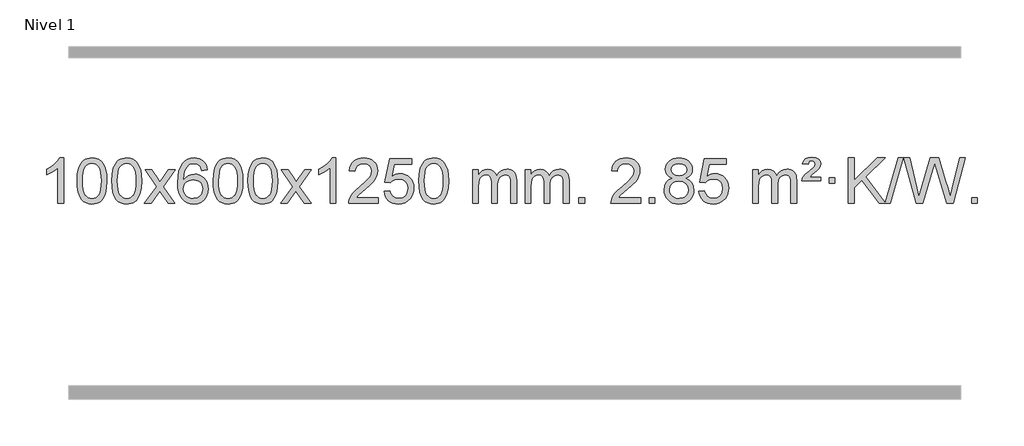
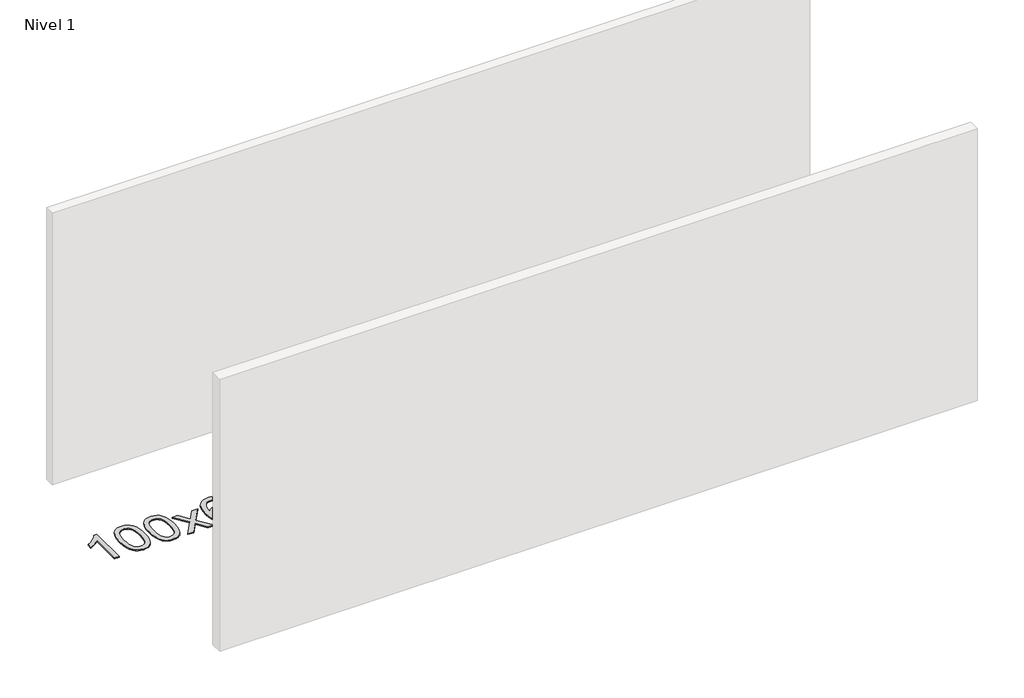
# One storey, part 3 of 8: 1 proxy.
"""IFC4 building model written with IfcOpenShell, lengths in millimetres."""

from ifc_helpers import new_model, si_unit, origin, origin_with_axes, place, context, project, spatial, polyline, outline, extrude, element, save

model = new_model("IFC4")

# Units and contexts
model_context = context("Model", 3, world=origin())
ifc_project = project(units=[si_unit("LENGTHUNIT", "METRE", prefix="MILLI")], contexts=[model_context])

# Site, building, storey
site = spatial("IfcSite", under=ifc_project)
building = spatial("IfcBuilding", under=site)
storey = spatial("IfcBuildingStorey", under=building, Name="Nivel 1", Elevation=0.0)

# Proxy
placement = place(None, origin())
element("IfcBuildingElementProxy", 1, Name="Texto de modelo 1", ObjectType="Texto de modelo 1", at=placement, inside=storey, context=model_context, shape_type="SweptSolid", body=[
    extrude(outline(polyline([(-6575.4615788, -12403.579453), (-6625.6897338, -12403.579453), (-6625.6897338, -12090.4382987), (-6646.6590076, -12107.3976587), (-6673.2691385, -12124.3324932), (-6726.146044, -12149.6918254), (-6726.146044, -12102.2105225), (-6686.6968314, -12080.7507395), (-6652.520594, -12055.219729), (-6625.5793692, -12028.0700378), (-6607.8351943, -12001.7542124), (-6575.4615788, -12001.7542124), (-6575.4615788, -12403.579453)])), origin_with_axes(), (0.0, 0.0, 1.0), 10.0),
    extrude(outline(polyline([(-6456.1697105, -12205.9041943), (-6452.4786278, -12141.5861588), (-6441.4053797, -12090.2911459), (-6423.0603309, -12051.2343407), (-6411.2022679, -12036.0009605), (-6397.5538459, -12023.6309284), (-6382.0690796, -12014.0598651), (-6364.7019837, -12007.2233914), (-6324.3208034, -12001.7542124), (-6293.3696649, -12004.991574), (-6265.6558879, -12014.7036586), (-6242.4793222, -12030.5103217), (-6225.1398175, -12052.0314184), (-6212.0432185, -12079.0830078), (-6201.5953698, -12111.4811488), (-6194.7527647, -12152.6226186), (-6192.4718963, -12205.9041943), (-6196.1261908, -12269.8543477), (-6207.0890743, -12321.0267333), (-6225.3237585, -12360.1203266), (-6237.1542303, -12375.3996922), (-6250.7934553, -12387.8341036), (-6266.2966157, -12397.4695462), (-6283.7188939, -12404.3520052), (-6324.3208034, -12409.8579724), (-6351.9855294, -12407.4667394), (-6376.5109958, -12400.2930405), (-6397.8972024, -12388.3368757), (-6416.1441494, -12371.5982449), (-6433.6553324, -12341.3399508), (-6446.1633202, -12303.6381776), (-6453.6681129, -12258.4929255), (-6456.1697105, -12205.9041943)]), holes=[polyline([(-6405.9415554, -12205.8060924), (-6404.4700274, -12249.4706195), (-6400.0554435, -12284.8148822), (-6392.6978036, -12311.8388804), (-6382.3971077, -12330.5426142), (-6369.9381708, -12343.2682656), (-6356.1058078, -12352.3580165), (-6340.9000186, -12357.8118671), (-6324.3208034, -12359.6298173), (-6307.7415881, -12357.8057357), (-6292.535799, -12352.3334911), (-6278.703436, -12343.2130833), (-6266.2444991, -12330.4445124), (-6255.9438032, -12311.7101217), (-6248.5861633, -12284.6922549), (-6244.1715794, -12249.3909118), (-6242.7000514, -12205.8060924), (-6244.1225284, -12163.2973278), (-6248.3899596, -12128.5753989), (-6255.5023448, -12101.6403055), (-6265.4596842, -12082.4920476), (-6277.7101546, -12069.1440625), (-6291.7019332, -12059.6097875), (-6307.4350198, -12053.8892225), (-6324.9094146, -12051.9823675), (-6341.4027907, -12053.6623619), (-6356.3510624, -12058.7023452), (-6369.7542298, -12067.1023175), (-6381.6122928, -12078.8622786), (-6392.2563452, -12099.708925), (-6399.8592397, -12127.8151094), (-6404.4209765, -12163.1808319), (-6405.9415554, -12205.8060924)])]), origin_with_axes(), (0.0, 0.0, 1.0), 10.0),
    extrude(outline(polyline([(-6148.5222606, -12205.9041943), (-6144.8311779, -12141.5861588), (-6133.7579299, -12090.2911459), (-6115.4128811, -12051.2343407), (-6103.5548181, -12036.0009605), (-6089.9063961, -12023.6309284), (-6074.4216298, -12014.0598651), (-6057.0545339, -12007.2233914), (-6016.6733536, -12001.7542124), (-5985.722215, -12004.991574), (-5958.0084381, -12014.7036586), (-5934.8318724, -12030.5103217), (-5917.4923677, -12052.0314184), (-5904.3957686, -12079.0830078), (-5893.94792, -12111.4811488), (-5887.1053149, -12152.6226186), (-5884.8244465, -12205.9041943), (-5888.478741, -12269.8543477), (-5899.4416244, -12321.0267333), (-5917.6763087, -12360.1203266), (-5929.5067805, -12375.3996922), (-5943.1460055, -12387.8341036), (-5958.6491659, -12397.4695462), (-5976.071444, -12404.3520052), (-6016.6733536, -12409.8579724), (-6044.3380796, -12407.4667394), (-6068.8635459, -12400.2930405), (-6090.2497526, -12388.3368757), (-6108.4966996, -12371.5982449), (-6126.0078825, -12341.3399508), (-6138.5158704, -12303.6381776), (-6146.0206631, -12258.4929255), (-6148.5222606, -12205.9041943)]), holes=[polyline([(-6098.2941056, -12205.8060924), (-6096.8225776, -12249.4706195), (-6092.4079936, -12284.8148822), (-6085.0503537, -12311.8388804), (-6074.7496579, -12330.5426142), (-6062.290721, -12343.2682656), (-6048.4583579, -12352.3580165), (-6033.2525688, -12357.8118671), (-6016.6733536, -12359.6298173), (-6000.0941383, -12357.8057357), (-5984.8883492, -12352.3334911), (-5971.0559862, -12343.2130833), (-5958.5970493, -12330.4445124), (-5948.2963534, -12311.7101217), (-5940.9387135, -12284.6922549), (-5936.5241295, -12249.3909118), (-5935.0526016, -12205.8060924), (-5936.4750786, -12163.2973278), (-5940.7425098, -12128.5753989), (-5947.854895, -12101.6403055), (-5957.8122343, -12082.4920476), (-5970.0627048, -12069.1440625), (-5984.0544833, -12059.6097875), (-5999.78757, -12053.8892225), (-6017.2619648, -12051.9823675), (-6033.7553409, -12053.6623619), (-6048.7036126, -12058.7023452), (-6062.10678, -12067.1023175), (-6073.9648429, -12078.8622786), (-6084.6088953, -12099.708925), (-6092.2117899, -12127.8151094), (-6096.7735266, -12163.1808319), (-6098.2941056, -12205.8060924)])]), origin_with_axes(), (0.0, 0.0, 1.0), 10.0),
    extrude(outline(polyline([(-5859.7103689, -12403.579453), (-5752.3869282, -12255.2494325), (-5853.4318496, -12108.4890419), (-5793.0011005, -12108.4890419), (-5744.2444734, -12179.122385), (-5721.4848406, -12212.4770192), (-5701.7663657, -12185.2047007), (-5646.2407099, -12108.4890419), (-5585.8099608, -12108.4890419), (-5691.9561791, -12255.2494325), (-5589.7340354, -12403.579453), (-5650.1647845, -12403.579453), (-5711.6746541, -12314.4048574), (-5722.9563686, -12298.1199477), (-5799.2796199, -12403.579453), (-5859.7103689, -12403.579453)])), origin_with_axes(), (0.0, 0.0, 1.0), 10.0),
    extrude(outline(polyline([(-5300.9221437, -12108.4890419), (-5351.1502988, -12114.7675613), (-5359.2437027, -12089.874213), (-5370.1820607, -12072.8780648), (-5392.9662189, -12057.2062918), (-5420.5083176, -12051.9823675), (-5443.8565616, -12055.0235253), (-5465.8313794, -12064.1469988), (-5484.7037258, -12083.3627017), (-5500.1179814, -12109.8134171), (-5510.5290419, -12147.227016), (-5514.3918028, -12199.3313693), (-5494.2441322, -12175.8237098), (-5470.0988106, -12159.2567573), (-5443.3047386, -12149.434308), (-5415.2108169, -12146.1601582), (-5391.077758, -12148.398107), (-5368.8086346, -12155.1119534), (-5348.4034466, -12166.3016975), (-5329.862194, -12181.9673391), (-5314.4540698, -12201.1769106), (-5303.4482668, -12222.9984443), (-5296.844785, -12247.4319401), (-5294.6436244, -12274.4773982), (-5298.7884282, -12310.4439945), (-5311.2228396, -12343.786366), (-5330.9167891, -12372.0642287), (-5356.840207, -12392.8372987), (-5387.815871, -12405.602804), (-5422.6665587, -12409.8579724), (-5452.6090874, -12407.0375437), (-5479.6514797, -12398.5762579), (-5503.7937357, -12384.4741147), (-5525.0358552, -12364.7311143), (-5542.3539001, -12338.5133908), (-5554.7239322, -12304.9870783), (-5562.1459515, -12264.1521768), (-5564.6199579, -12216.0086864), (-5561.8731057, -12162.0342663), (-5553.632549, -12115.9693092), (-5539.8982878, -12077.8138149), (-5520.6703222, -12047.5677835), (-5499.8298072, -12027.5243462), (-5475.6660915, -12013.2076052), (-5448.179175, -12004.6175606), (-5417.3690579, -12001.7542124), (-5394.2354118, -12003.5261773), (-5373.2967949, -12008.8420722), (-5354.5532073, -12017.7018969), (-5338.0046489, -12030.1056515), (-5324.0987094, -12045.6364031), (-5313.2829788, -12063.8772186), (-5305.5574569, -12084.8280983), (-5300.9221437, -12108.4890419)]), holes=[polyline([(-5514.3918028, -12273.6925832), (-5511.485535, -12295.9494439), (-5502.7667318, -12317.2007605), (-5489.2286743, -12335.472233), (-5471.8646442, -12348.7895612), (-5450.9076332, -12356.9197533), (-5426.5906333, -12359.6298173), (-5393.4444655, -12354.0134855), (-5379.5293291, -12346.9930708), (-5367.3861575, -12337.1644901), (-5357.5361171, -12324.9262824), (-5350.500374, -12310.6769865), (-5344.8717794, -12276.1451299), (-5350.4267976, -12242.9989621), (-5357.3705702, -12229.3781312), (-5367.0918519, -12217.725469), (-5379.2718117, -12208.3904634), (-5393.5916183, -12201.7226022), (-5428.6507725, -12196.3883133), (-5461.7478893, -12201.7226022), (-5489.4248781, -12217.725469), (-5500.3479076, -12229.2248471), (-5508.1500716, -12242.3858254), (-5512.83137, -12257.2084042), (-5514.3918028, -12273.6925832)])]), origin_with_axes(), (0.0, 0.0, 1.0), 10.0),
    extrude(outline(polyline([(-5250.6939887, -12205.9041943), (-5247.002906, -12141.5861588), (-5235.9296579, -12090.2911459), (-5217.5846091, -12051.2343407), (-5205.7265461, -12036.0009605), (-5192.0781241, -12023.6309284), (-5176.5933578, -12014.0598651), (-5159.2262619, -12007.2233914), (-5118.8450816, -12001.7542124), (-5087.8939431, -12004.991574), (-5060.1801661, -12014.7036586), (-5037.0036004, -12030.5103217), (-5019.6640957, -12052.0314184), (-5006.5674967, -12079.0830078), (-4996.119648, -12111.4811488), (-4989.2770429, -12152.6226186), (-4986.9961745, -12205.9041943), (-4990.650469, -12269.8543477), (-5001.6133525, -12321.0267333), (-5019.8480367, -12360.1203266), (-5031.6785085, -12375.3996922), (-5045.3177335, -12387.8341036), (-5060.8208939, -12397.4695462), (-5078.2431721, -12404.3520052), (-5118.8450816, -12409.8579724), (-5146.5098076, -12407.4667394), (-5171.035274, -12400.2930405), (-5192.4214806, -12388.3368757), (-5210.6684276, -12371.5982449), (-5228.1796106, -12341.3399508), (-5240.6875984, -12303.6381776), (-5248.1923911, -12258.4929255), (-5250.6939887, -12205.9041943)]), holes=[polyline([(-5200.4658336, -12205.8060924), (-5198.9943056, -12249.4706195), (-5194.5797217, -12284.8148822), (-5187.2220818, -12311.8388804), (-5176.9213859, -12330.5426142), (-5164.462449, -12343.2682656), (-5150.630086, -12352.3580165), (-5135.4242968, -12357.8118671), (-5118.8450816, -12359.6298173), (-5102.2658663, -12357.8057357), (-5087.0600772, -12352.3334911), (-5073.2277142, -12343.2130833), (-5060.7687773, -12330.4445124), (-5050.4680814, -12311.7101217), (-5043.1104415, -12284.6922549), (-5038.6958576, -12249.3909118), (-5037.2243296, -12205.8060924), (-5038.6468066, -12163.2973278), (-5042.9142378, -12128.5753989), (-5050.026623, -12101.6403055), (-5059.9839624, -12082.4920476), (-5072.2344328, -12069.1440625), (-5086.2262114, -12059.6097875), (-5101.959298, -12053.8892225), (-5119.4336928, -12051.9823675), (-5135.9270689, -12053.6623619), (-5150.8753406, -12058.7023452), (-5164.278508, -12067.1023175), (-5176.136571, -12078.8622786), (-5186.7806234, -12099.708925), (-5194.3835179, -12127.8151094), (-5198.9452547, -12163.1808319), (-5200.4658336, -12205.8060924)])]), origin_with_axes(), (0.0, 0.0, 1.0), 10.0),
    extrude(outline(polyline([(-4943.0465388, -12205.9041943), (-4939.3554561, -12141.5861588), (-4928.2822081, -12090.2911459), (-4909.9371593, -12051.2343407), (-4898.0790963, -12036.0009605), (-4884.4306743, -12023.6309284), (-4868.945908, -12014.0598651), (-4851.5788121, -12007.2233914), (-4811.1976318, -12001.7542124), (-4780.2464932, -12004.991574), (-4752.5327163, -12014.7036586), (-4729.3561506, -12030.5103217), (-4712.0166459, -12052.0314184), (-4698.9200468, -12079.0830078), (-4688.4721982, -12111.4811488), (-4681.6295931, -12152.6226186), (-4679.3487247, -12205.9041943), (-4683.0030192, -12269.8543477), (-4693.9659026, -12321.0267333), (-4712.2005869, -12360.1203266), (-4724.0310587, -12375.3996922), (-4737.6702837, -12387.8341036), (-4753.1734441, -12397.4695462), (-4770.5957222, -12404.3520052), (-4811.1976318, -12409.8579724), (-4838.8623578, -12407.4667394), (-4863.3878241, -12400.2930405), (-4884.7740308, -12388.3368757), (-4903.0209778, -12371.5982449), (-4920.5321607, -12341.3399508), (-4933.0401486, -12303.6381776), (-4940.5449413, -12258.4929255), (-4943.0465388, -12205.9041943)]), holes=[polyline([(-4892.8183838, -12205.8060924), (-4891.3468558, -12249.4706195), (-4886.9322718, -12284.8148822), (-4879.5746319, -12311.8388804), (-4869.2739361, -12330.5426142), (-4856.8149992, -12343.2682656), (-4842.9826361, -12352.3580165), (-4827.776847, -12357.8118671), (-4811.1976318, -12359.6298173), (-4794.6184165, -12357.8057357), (-4779.4126274, -12352.3334911), (-4765.5802644, -12343.2130833), (-4753.1213275, -12330.4445124), (-4742.8206316, -12311.7101217), (-4735.4629917, -12284.6922549), (-4731.0484077, -12249.3909118), (-4729.5768798, -12205.8060924), (-4730.9993568, -12163.2973278), (-4735.266788, -12128.5753989), (-4742.3791732, -12101.6403055), (-4752.3365125, -12082.4920476), (-4764.586983, -12069.1440625), (-4778.5787615, -12059.6097875), (-4794.3118482, -12053.8892225), (-4811.786243, -12051.9823675), (-4828.2796191, -12053.6623619), (-4843.2278908, -12058.7023452), (-4856.6310582, -12067.1023175), (-4868.4891211, -12078.8622786), (-4879.1331735, -12099.708925), (-4886.7360681, -12127.8151094), (-4891.2978048, -12163.1808319), (-4892.8183838, -12205.8060924)])]), origin_with_axes(), (0.0, 0.0, 1.0), 10.0),
    extrude(outline(polyline([(-4654.2346472, -12403.579453), (-4546.9112064, -12255.2494325), (-4647.9561278, -12108.4890419), (-4587.5253787, -12108.4890419), (-4538.7687516, -12179.122385), (-4516.0091188, -12212.4770192), (-4496.2906439, -12185.2047007), (-4440.7649881, -12108.4890419), (-4380.334239, -12108.4890419), (-4486.4804574, -12255.2494325), (-4384.2583136, -12403.579453), (-4444.6890627, -12403.579453), (-4506.1989323, -12314.4048574), (-4517.4806468, -12298.1199477), (-4593.8038981, -12403.579453), (-4654.2346472, -12403.579453)])), origin_with_axes(), (0.0, 0.0, 1.0), 10.0),
    extrude(outline(polyline([(-4164.5101352, -12403.579453), (-4214.7382902, -12403.579453), (-4214.7382902, -12090.4382987), (-4235.707564, -12107.3976587), (-4262.317695, -12124.3324932), (-4315.1946004, -12149.6918254), (-4315.1946004, -12102.2105225), (-4275.7453878, -12080.7507395), (-4241.5691504, -12055.219729), (-4214.6279257, -12028.0700378), (-4196.8837508, -12001.7542124), (-4164.5101352, -12001.7542124), (-4164.5101352, -12403.579453)])), origin_with_axes(), (0.0, 0.0, 1.0), 10.0),
    extrude(outline(polyline([(-3787.7989721, -12353.3512979), (-3787.7989721, -12403.579453), (-4051.4967863, -12403.579453), (-4050.3931403, -12385.8965918), (-4046.1011837, -12368.9494945), (-4033.7158232, -12341.8856424), (-4015.5915035, -12315.6311307), (-3989.37378, -12288.1503456), (-3952.7082078, -12257.4076736), (-3898.5069272, -12209.2641831), (-3865.9861588, -12173.7267824), (-3849.7257746, -12144.884834), (-3844.3056466, -12116.8277005), (-3849.4192063, -12091.6768347), (-3864.7598855, -12070.7688747), (-3888.3411214, -12056.6789943), (-3918.1763512, -12051.9823675), (-3949.5076345, -12056.5686297), (-3973.8491598, -12070.3274163), (-3989.557721, -12092.1796068), (-3994.9901118, -12121.0460807), (-4045.2182669, -12114.7675613), (-4040.8987191, -12088.838012), (-4033.0413728, -12066.1826125), (-4021.646228, -12046.8013627), (-4006.7132847, -12030.6942627), (-3988.5858994, -12018.0329907), (-3967.6074286, -12008.989225), (-3943.7778724, -12003.5629655), (-3917.0972307, -12001.7542124), (-3890.1774657, -12003.7653006), (-3866.2191508, -12009.7985654), (-3845.2222859, -12019.8540066), (-3827.1868711, -12033.9316242), (-3812.7015175, -12050.9890861), (-3802.3548364, -12069.9840598), (-3796.1468277, -12090.9165453), (-3794.0774915, -12113.7865427), (-3796.3093089, -12137.8092369), (-3803.0047612, -12161.4149983), (-3814.8873497, -12185.4254299), (-3832.6805755, -12210.6621347), (-3861.0442774, -12240.7916701), (-3904.6382938, -12279.4805933), (-3962.4202925, -12327.795762), (-3985.0818234, -12353.3512979), (-3787.7989721, -12353.3512979)])), origin_with_axes(), (0.0, 0.0, 1.0), 10.0),
    extrude(outline(polyline([(-3737.570817, -12296.8446235), (-3687.342662, -12290.5661041), (-3678.1210866, -12320.7201649), (-3662.0323807, -12342.3148381), (-3639.1501206, -12355.3010725), (-3609.5478827, -12359.6298173), (-3590.418019, -12358.1245668), (-3573.5444981, -12353.6088153), (-3558.9273202, -12346.0825628), (-3546.5664851, -12335.5458094), (-3536.7379045, -12322.519721), (-3529.7174898, -12307.5254641), (-3524.101158, -12271.6324441), (-3529.3618705, -12237.8363514), (-3535.9377612, -12223.9181493), (-3545.1440081, -12211.9865099), (-3557.0112681, -12202.4154467), (-3571.5701981, -12195.5789729), (-3608.7630678, -12190.1097939), (-3633.1291186, -12192.2925604), (-3652.8598563, -12198.8408599), (-3668.6174684, -12208.8717757), (-3681.0641426, -12221.5023908), (-3731.2922977, -12215.2238715), (-3687.342662, -12008.0327318), (-3492.708561, -12008.0327318), (-3492.708561, -12058.2608869), (-3646.7284897, -12058.2608869), (-3668.2127982, -12168.919791), (-3650.4870174, -12156.2155994), (-3632.332041, -12147.1411769), (-3613.7478688, -12141.6965234), (-3594.734501, -12139.8816388), (-3570.273414, -12142.1318504), (-3547.8050212, -12148.882485), (-3527.3293225, -12160.1335427), (-3508.8463179, -12175.8850234), (-3493.5454926, -12195.1743027), (-3482.6163316, -12217.038756), (-3476.0588351, -12241.4783832), (-3473.8730029, -12268.4931844), (-3475.8411716, -12294.5147042), (-3481.7456776, -12318.7213394), (-3491.586521, -12341.1130902), (-3505.3637017, -12361.6899565), (-3526.2348735, -12382.7634634), (-3550.5886616, -12397.8159684), (-3578.4250659, -12406.8474714), (-3609.7440864, -12409.8579724), (-3635.6644387, -12407.9235262), (-3659.077062, -12402.1201877), (-3679.9819564, -12392.447957), (-3698.3791218, -12378.9068338), (-3713.6860785, -12362.1712688), (-3725.3203466, -12342.915712), (-3733.2819261, -12321.1401636), (-3737.570817, -12296.8446235)])), origin_with_axes(), (0.0, 0.0, 1.0), 10.0),
    extrude(outline(polyline([(-3429.9233672, -12205.9041943), (-3426.2322845, -12141.5861588), (-3415.1590365, -12090.2911459), (-3396.8139876, -12051.2343407), (-3384.9559247, -12036.0009605), (-3371.3075026, -12023.6309284), (-3355.8227363, -12014.0598651), (-3338.4556405, -12007.2233914), (-3298.0744601, -12001.7542124), (-3267.1233216, -12004.991574), (-3239.4095446, -12014.7036586), (-3216.2329789, -12030.5103217), (-3198.8934742, -12052.0314184), (-3185.7968752, -12079.0830078), (-3175.3490265, -12111.4811488), (-3168.5064214, -12152.6226186), (-3166.2255531, -12205.9041943), (-3169.8798475, -12269.8543477), (-3180.842731, -12321.0267333), (-3199.0774152, -12360.1203266), (-3210.9078871, -12375.3996922), (-3224.547112, -12387.8341036), (-3240.0502724, -12397.4695462), (-3257.4725506, -12404.3520052), (-3298.0744601, -12409.8579724), (-3325.7391862, -12407.4667394), (-3350.2646525, -12400.2930405), (-3371.6508592, -12388.3368757), (-3389.8978061, -12371.5982449), (-3407.4089891, -12341.3399508), (-3419.9169769, -12303.6381776), (-3427.4217696, -12258.4929255), (-3429.9233672, -12205.9041943)]), holes=[polyline([(-3379.6952121, -12205.8060924), (-3378.2236842, -12249.4706195), (-3373.8091002, -12284.8148822), (-3366.4514603, -12311.8388804), (-3356.1507644, -12330.5426142), (-3343.6918275, -12343.2682656), (-3329.8594645, -12352.3580165), (-3314.6536754, -12357.8118671), (-3298.0744601, -12359.6298173), (-3281.4952449, -12357.8057357), (-3266.2894558, -12352.3334911), (-3252.4570927, -12343.2130833), (-3239.9981558, -12330.4445124), (-3229.69746, -12311.7101217), (-3222.3398201, -12284.6922549), (-3217.9252361, -12249.3909118), (-3216.4537081, -12205.8060924), (-3217.8761852, -12163.2973278), (-3222.1436163, -12128.5753989), (-3229.2560016, -12101.6403055), (-3239.2133409, -12082.4920476), (-3251.4638113, -12069.1440625), (-3265.4555899, -12059.6097875), (-3281.1886766, -12053.8892225), (-3298.6630713, -12051.9823675), (-3315.1564474, -12053.6623619), (-3330.1047192, -12058.7023452), (-3343.5078865, -12067.1023175), (-3355.3659495, -12078.8622786), (-3366.0100019, -12099.708925), (-3373.6128965, -12127.8151094), (-3378.1746332, -12163.1808319), (-3379.6952121, -12205.8060924)])]), origin_with_axes(), (0.0, 0.0, 1.0), 10.0),
    extrude(outline(polyline([(-2952.755894, -12403.579453), (-2952.755894, -12108.4890419), (-2902.5277389, -12108.4890419), (-2902.5277389, -12157.0494653), (-2887.4200517, -12134.7435537), (-2867.9958823, -12117.2691589), (-2844.9174185, -12105.9751816), (-2818.8468478, -12102.2105225), (-2790.9123416, -12106.048758), (-2768.5205908, -12117.5634645), (-2751.7942228, -12135.9943524), (-2740.8558648, -12160.5811324), (-2722.5476041, -12135.0439906), (-2701.6641696, -12116.803175), (-2678.205561, -12105.8586857), (-2652.1717785, -12102.2105225), (-2632.0639617, -12103.7280358), (-2614.414823, -12108.2805755), (-2599.2243623, -12115.8681416), (-2586.4925796, -12126.4907342), (-2576.4279413, -12140.2709806), (-2569.238914, -12157.3315082), (-2564.9254976, -12177.6723168), (-2563.4876922, -12201.2934066), (-2563.4876922, -12403.579453), (-2613.7158472, -12403.579453), (-2613.7158472, -12222.875817), (-2614.8808069, -12197.8230531), (-2618.3756858, -12180.9372695), (-2624.9239854, -12169.3735121), (-2635.2492067, -12160.2868268), (-2648.5297467, -12154.4007149), (-2663.9440023, -12152.4386776), (-2691.1550072, -12157.4663982), (-2713.3382915, -12172.54956), (-2721.9436645, -12184.1194488), (-2728.0903595, -12198.7182326), (-2733.0077155, -12237.0024856), (-2733.0077155, -12403.579453), (-2783.2358706, -12403.579453), (-2783.2358706, -12217.2840106), (-2786.1421384, -12188.8835206), (-2794.8609417, -12168.6254854), (-2810.2016209, -12156.4853796), (-2832.9735164, -12152.4386776), (-2852.3241093, -12155.1364789), (-2870.1541233, -12163.2298828), (-2884.8694032, -12176.5226856), (-2894.8757934, -12194.8186835), (-2900.6147525, -12220.2025411), (-2902.5277389, -12254.7589232), (-2902.5277389, -12403.579453), (-2952.755894, -12403.579453)])), origin_with_axes(), (0.0, 0.0, 1.0), 10.0),
    extrude(outline(polyline([(-2488.1454596, -12403.579453), (-2488.1454596, -12108.4890419), (-2437.9173045, -12108.4890419), (-2437.9173045, -12157.0494653), (-2422.8096172, -12134.7435537), (-2403.3854479, -12117.2691589), (-2380.306984, -12105.9751816), (-2354.2364133, -12102.2105225), (-2326.3019071, -12106.048758), (-2303.9101564, -12117.5634645), (-2287.1837883, -12135.9943524), (-2276.2454303, -12160.5811324), (-2257.9371697, -12135.0439906), (-2237.0537351, -12116.803175), (-2213.5951266, -12105.8586857), (-2187.561344, -12102.2105225), (-2167.4535273, -12103.7280358), (-2149.8043886, -12108.2805755), (-2134.6139279, -12115.8681416), (-2121.8821452, -12126.4907342), (-2111.8175069, -12140.2709806), (-2104.6284796, -12157.3315082), (-2100.3150632, -12177.6723168), (-2098.8772577, -12201.2934066), (-2098.8772577, -12403.579453), (-2149.1054128, -12403.579453), (-2149.1054128, -12222.875817), (-2150.2703724, -12197.8230531), (-2153.7652514, -12180.9372695), (-2160.3135509, -12169.3735121), (-2170.6387722, -12160.2868268), (-2183.9193123, -12154.4007149), (-2199.3335679, -12152.4386776), (-2226.5445728, -12157.4663982), (-2248.7278571, -12172.54956), (-2257.3332301, -12184.1194488), (-2263.4799251, -12198.7182326), (-2268.3972811, -12237.0024856), (-2268.3972811, -12403.579453), (-2318.6254362, -12403.579453), (-2318.6254362, -12217.2840106), (-2321.5317039, -12188.8835206), (-2330.2505072, -12168.6254854), (-2345.5911864, -12156.4853796), (-2368.3630819, -12152.4386776), (-2387.7136749, -12155.1364789), (-2405.5436889, -12163.2298828), (-2420.2589687, -12176.5226856), (-2430.265359, -12194.8186835), (-2436.0043181, -12220.2025411), (-2437.9173045, -12254.7589232), (-2437.9173045, -12403.579453), (-2488.1454596, -12403.579453)])), origin_with_axes(), (0.0, 0.0, 1.0), 10.0),
    extrude(outline(polyline([(-2010.9779863, -12403.579453), (-2010.9779863, -12353.3512979), (-1960.7498313, -12353.3512979), (-1960.7498313, -12403.579453), (-2010.9779863, -12403.579453)])), origin_with_axes(), (0.0, 0.0, 1.0), 10.0),
    extrude(outline(polyline([(-1464.7467999, -12353.3512979), (-1464.7467999, -12403.579453), (-1728.444614, -12403.579453), (-1727.3409681, -12385.8965918), (-1723.0490115, -12368.9494945), (-1710.6636509, -12341.8856424), (-1692.5393313, -12315.6311307), (-1666.3216078, -12288.1503456), (-1629.6560356, -12257.4076736), (-1575.454755, -12209.2641831), (-1542.9339866, -12173.7267824), (-1526.6736024, -12144.884834), (-1521.2534744, -12116.8277005), (-1526.3670341, -12091.6768347), (-1541.7077133, -12070.7688747), (-1565.2889492, -12056.6789943), (-1595.124179, -12051.9823675), (-1626.4554623, -12056.5686297), (-1650.7969876, -12070.3274163), (-1666.5055488, -12092.1796068), (-1671.9379396, -12121.0460807), (-1722.1660947, -12114.7675613), (-1717.8465469, -12088.838012), (-1709.9892006, -12066.1826125), (-1698.5940558, -12046.8013627), (-1683.6611125, -12030.6942627), (-1665.5337272, -12018.0329907), (-1644.5552564, -12008.989225), (-1620.7257002, -12003.5629655), (-1594.0450585, -12001.7542124), (-1567.1252935, -12003.7653006), (-1543.1669785, -12009.7985654), (-1522.1701137, -12019.8540066), (-1504.1346989, -12033.9316242), (-1489.6493453, -12050.9890861), (-1479.3026642, -12069.9840598), (-1473.0946555, -12090.9165453), (-1471.0253193, -12113.7865427), (-1473.2571367, -12137.8092369), (-1479.952589, -12161.4149983), (-1491.8351775, -12185.4254299), (-1509.6284033, -12210.6621347), (-1537.9921051, -12240.7916701), (-1581.5861216, -12279.4805933), (-1639.3681203, -12327.795762), (-1662.0296512, -12353.3512979), (-1464.7467999, -12353.3512979)])), origin_with_axes(), (0.0, 0.0, 1.0), 10.0),
    extrude(outline(polyline([(-1389.4045673, -12403.579453), (-1389.4045673, -12353.3512979), (-1339.1764122, -12353.3512979), (-1339.1764122, -12403.579453), (-1389.4045673, -12403.579453)])), origin_with_axes(), (0.0, 0.0, 1.0), 10.0),
    extrude(outline(polyline([(-1184.3716686, -12182.2616447), (-1211.2638425, -12169.0178929), (-1230.1361888, -12151.0652515), (-1241.2830133, -12128.7716026), (-1244.9986215, -12102.5048281), (-1242.9752705, -12082.0199324), (-1236.9052176, -12063.2395565), (-1226.7884627, -12046.1637006), (-1212.6250059, -12030.7923645), (-1195.0954288, -12018.088173), (-1174.8803132, -12009.0137504), (-1151.979659, -12003.5690969), (-1126.3934662, -12001.7542124), (-1100.6846461, -12003.6120165), (-1077.6123136, -12009.1854287), (-1057.1764688, -12018.4744491), (-1039.3771116, -12031.4790776), (-1024.9561374, -12047.1508506), (-1014.6554415, -12064.4413044), (-1008.475024, -12083.3504389), (-1006.4148848, -12103.8782543), (-1010.0814421, -12129.2989001), (-1021.0811137, -12151.2124043), (-1039.5365271, -12169.0546811), (-1065.5703097, -12182.2616447), (-1034.6559593, -12198.1909351), (-1012.153844, -12221.6495436), (-998.4318456, -12251.5092989), (-993.8578461, -12286.6420295), (-996.1264517, -12311.6947933), (-1002.9322686, -12334.6628926), (-1014.2752968, -12355.5463272), (-1030.1555363, -12374.3450971), (-1049.7391211, -12389.88198), (-1072.1921856, -12400.9797536), (-1097.5147296, -12407.6384177), (-1125.7067531, -12409.8579724), (-1153.8987767, -12407.6292206), (-1179.2213207, -12400.9429654), (-1201.6743852, -12389.7992066), (-1221.25797, -12374.1979443), (-1237.1382095, -12355.26735), (-1248.4812377, -12334.135595), (-1255.2870546, -12310.8026795), (-1257.5556602, -12285.2686033), (-1252.7977197, -12248.7747094), (-1238.5238983, -12218.7555386), (-1215.46996, -12196.2411605), (-1184.3716686, -12182.2616447)]), holes=[polyline([(-1194.7704664, -12103.9763561), (-1190.3190942, -12125.902123), (-1176.9649778, -12143.413306), (-1155.1005246, -12154.8912243), (-1125.118142, -12158.717197), (-1095.8347351, -12154.9157497), (-1074.3013757, -12143.5114079), (-1061.0576239, -12126.5888361), (-1056.6430399, -12106.232699), (-1061.2047767, -12085.1040098), (-1074.8899869, -12067.629615), (-1096.7176519, -12055.8941794), (-1125.7067531, -12051.9823675), (-1154.8797954, -12055.8083402), (-1176.6706722, -12067.2862585), (-1190.2455178, -12084.1107284), (-1194.7704664, -12103.9763561)]), polyline([(-1207.3275051, -12283.5027698), (-1205.2305778, -12302.7184726), (-1198.9397957, -12321.3210389), (-1187.3269873, -12337.5446349), (-1169.2639814, -12349.623427), (-1147.6325201, -12357.1282197), (-1125.3143457, -12359.6298173), (-1091.1258456, -12354.3691048), (-1077.2321689, -12347.7932141), (-1065.4722078, -12338.5869672), (-1049.4325528, -12314.6869002), (-1044.0860012, -12285.0723996), (-1049.6042311, -12254.9551269), (-1066.1589209, -12230.5277625), (-1078.237713, -12221.0854579), (-1092.4011699, -12214.3409547), (-1126.9820774, -12208.9453521), (-1160.6923309, -12214.2673783), (-1174.4296577, -12220.919911), (-1186.0884513, -12230.2334569), (-1202.0177417, -12254.1948375), (-1207.3275051, -12283.5027698)])]), origin_with_axes(), (0.0, 0.0, 1.0), 10.0),
    extrude(outline(polyline([(-949.9082104, -12296.8446235), (-899.6800553, -12290.5661041), (-890.45848, -12320.7201649), (-874.369774, -12342.3148381), (-851.4875139, -12355.3010725), (-821.8852761, -12359.6298173), (-802.7554123, -12358.1245668), (-785.8818915, -12353.6088153), (-771.2647135, -12346.0825628), (-758.9038785, -12335.5458094), (-749.0752979, -12322.519721), (-742.0548831, -12307.5254641), (-736.4385513, -12271.6324441), (-741.6992639, -12237.8363514), (-748.2751545, -12223.9181493), (-757.4814014, -12211.9865099), (-769.3486615, -12202.4154467), (-783.9075914, -12195.5789729), (-821.1004611, -12190.1097939), (-845.466512, -12192.2925604), (-865.1972496, -12198.8408599), (-880.9548618, -12208.8717757), (-893.4015359, -12221.5023908), (-943.629691, -12215.2238715), (-899.6800553, -12008.0327318), (-705.0459544, -12008.0327318), (-705.0459544, -12058.2608869), (-859.065883, -12058.2608869), (-880.5501916, -12168.919791), (-862.8244108, -12156.2155994), (-844.6694343, -12147.1411769), (-826.0852622, -12141.6965234), (-807.0718944, -12139.8816388), (-782.6108074, -12142.1318504), (-760.1424145, -12148.882485), (-739.6667158, -12160.1335427), (-721.1837113, -12175.8850234), (-705.8828859, -12195.1743027), (-694.953725, -12217.038756), (-688.3962284, -12241.4783832), (-686.2103962, -12268.4931844), (-688.1785649, -12294.5147042), (-694.0830709, -12318.7213394), (-703.9239143, -12341.1130902), (-717.701095, -12361.6899565), (-738.5722669, -12382.7634634), (-762.926055, -12397.8159684), (-790.7624593, -12406.8474714), (-822.0814798, -12409.8579724), (-848.001832, -12407.9235262), (-871.4144553, -12402.1201877), (-892.3193497, -12392.447957), (-910.7165152, -12378.9068338), (-926.0234719, -12362.1712688), (-937.6577399, -12342.915712), (-945.6193195, -12321.1401636), (-949.9082104, -12296.8446235)])), origin_with_axes(), (0.0, 0.0, 1.0), 10.0),
    extrude(outline(polyline([(-472.7407372, -12403.579453), (-472.7407372, -12108.4890419), (-422.5125821, -12108.4890419), (-422.5125821, -12157.0494653), (-407.4048948, -12134.7435537), (-387.9807255, -12117.2691589), (-364.9022617, -12105.9751816), (-338.8316909, -12102.2105225), (-310.8971848, -12106.048758), (-288.505434, -12117.5634645), (-271.7790659, -12135.9943524), (-260.840708, -12160.5811324), (-242.5324473, -12135.0439906), (-221.6490127, -12116.803175), (-198.1904042, -12105.8586857), (-172.1566217, -12102.2105225), (-152.0488049, -12103.7280358), (-134.3996662, -12108.2805755), (-119.2092055, -12115.8681416), (-106.4774228, -12126.4907342), (-96.4127845, -12140.2709806), (-89.2237572, -12157.3315082), (-84.9103408, -12177.6723168), (-83.4725353, -12201.2934066), (-83.4725353, -12403.579453), (-133.7006904, -12403.579453), (-133.7006904, -12222.875817), (-134.8656501, -12197.8230531), (-138.360529, -12180.9372695), (-144.9088285, -12169.3735121), (-155.2340499, -12160.2868268), (-168.5145899, -12154.4007149), (-183.9288455, -12152.4386776), (-211.1398504, -12157.4663982), (-233.3231347, -12172.54956), (-241.9285077, -12184.1194488), (-248.0752027, -12198.7182326), (-252.9925587, -12237.0024856), (-252.9925587, -12403.579453), (-303.2207138, -12403.579453), (-303.2207138, -12217.2840106), (-306.1269816, -12188.8835206), (-314.8457848, -12168.6254854), (-330.186464, -12156.4853796), (-352.9583595, -12152.4386776), (-372.3089525, -12155.1364789), (-390.1389665, -12163.2298828), (-404.8542463, -12176.5226856), (-414.8606366, -12194.8186835), (-420.5995957, -12220.2025411), (-422.5125821, -12254.7589232), (-422.5125821, -12403.579453), (-472.7407372, -12403.579453)])), origin_with_axes(), (0.0, 0.0, 1.0), 10.0),
    extrude(outline(polyline([(-39.5228997, -12202.6668327), (-35.6969269, -12186.8479069), (-27.3582683, -12170.9799302), (-5.8494344, -12145.8413272), (26.1072483, -12118.1030247), (70.2530877, -12080.726214), (77.3899984, -12069.1992448), (79.7689686, -12057.3779701), (77.8805077, -12045.2869152), (72.215125, -12035.5012541), (62.8463969, -12029.026531), (49.8478997, -12026.8682899), (37.4134883, -12028.4869707), (28.5597949, -12033.343013), (22.1341227, -12042.8098431), (16.9837748, -12058.2608869), (-33.2443803, -12051.9823675), (-22.4041241, -12026.7701881), (-5.775858, -12009.2099542), (17.9893189, -11998.9092583), (50.2403072, -11995.475693), (86.0229626, -11999.6082341), (110.7691581, -12012.0058573), (125.1901323, -12030.3386434), (129.9971237, -12052.2766731), (125.9013708, -12075.1834586), (113.6141122, -12096.8149199), (93.0862969, -12116.6314968), (56.6169284, -12144.6886303), (31.0123416, -12171.2742358), (129.9971237, -12171.2742358), (129.9971237, -12202.6668327), (-39.5228997, -12202.6668327)])), origin_with_axes(), (0.0, 0.0, 1.0), 10.0),
    extrude(outline(polyline([(205.3393563, -12227.7809102), (205.3393563, -12177.5527552), (255.5675114, -12177.5527552), (255.5675114, -12227.7809102), (205.3393563, -12227.7809102)])), origin_with_axes(), (0.0, 0.0, 1.0), 10.0),
    extrude(outline(polyline([(646.2091394, -12403.579453), (492.7778219, -12200.9009991), (425.0875348, -12265.4520265), (425.0875348, -12403.579453), (374.8593797, -12403.579453), (374.8593797, -12001.7542124), (425.0875348, -12001.7542124), (425.0875348, -12198.4484525), (631.1014521, -12001.7542124), (701.3423877, -12001.7542124), (528.388799, -12166.9577537), (703.0424089, -12397.5349332), (814.3557366, -12001.7542124), (859.6787984, -12001.7542124), (746.6654495, -12403.579453), (707.6209071, -12403.579453), (701.3423877, -12403.579453), (646.2091394, -12403.579453)])), origin_with_axes(), (0.0, 0.0, 1.0), 10.0),
    extrude(outline(polyline([(974.1636753, -12403.579453), (864.5838917, -12001.7542124), (916.3816766, -12001.7542124), (979.9516854, -12265.844434), (999.5720585, -12347.3670841), (1020.5658576, -12275.2622131), (1100.2245723, -12001.7542124), (1174.8800919, -12001.7542124), (1232.7601925, -12200.0180823), (1257.5554389, -12273.5944814), (1275.8269114, -12347.3670841), (1294.8586732, -12268.1988788), (1359.0172932, -12001.7542124), (1410.8150781, -12001.7542124), (1301.1371926, -12403.579453), (1247.4754723, -12403.579453), (1151.1394405, -12093.5775584), (1137.6994849, -12050.3146358), (1122.5917976, -12102.4067263), (1034.7906281, -12403.579453), (974.1636753, -12403.579453)])), origin_with_axes(), (0.0, 0.0, 1.0), 10.0),
    extrude(outline(polyline([(1467.3217526, -12403.579453), (1467.3217526, -12353.3512979), (1517.5499077, -12353.3512979), (1517.5499077, -12403.579453), (1467.3217526, -12403.579453)])), origin_with_axes(), (0.0, 0.0, 1.0), 10.0),
])

save(model, "model.ifc")
